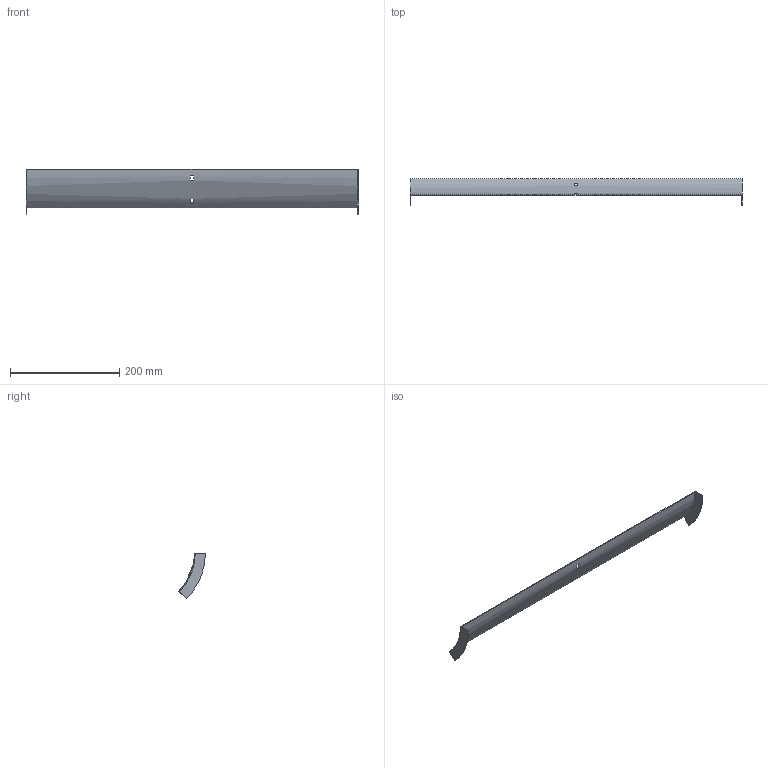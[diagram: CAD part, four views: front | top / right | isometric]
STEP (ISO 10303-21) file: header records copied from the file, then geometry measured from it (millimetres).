
FILE_DESCRIPTION (( 'STEP AP214' ), '1' );
FILE_NAME ('31N1R600.step', '2025-02-21T09:23:21', ( '' ), ( '' ), 'SwSTEP 2.0', 'SolidWorks 2023', '' );
FILE_SCHEMA (( 'AUTOMOTIVE_DESIGN' ));
Length unit declared in the file: millimetre
Products named in the file (1): 31N1R600
Bounding box: 607 x 48.85 x 83.79 mm (x, y, z)
Volume: 75558.3 mm3; surface area: 103048.2 mm2
Topology: 1 solids, 1 shells, 18 faces, 48 edges, 32 vertices
Faces by surface type: plane 14, cylinder 4
Entity records: 599 total; most frequent: DIRECTION 102, CARTESIAN_POINT 99, ORIENTED_EDGE 96, EDGE_CURVE 48, AXIS2_PLACEMENT_3D 35, VECTOR 32, LINE 32, VERTEX_POINT 32
